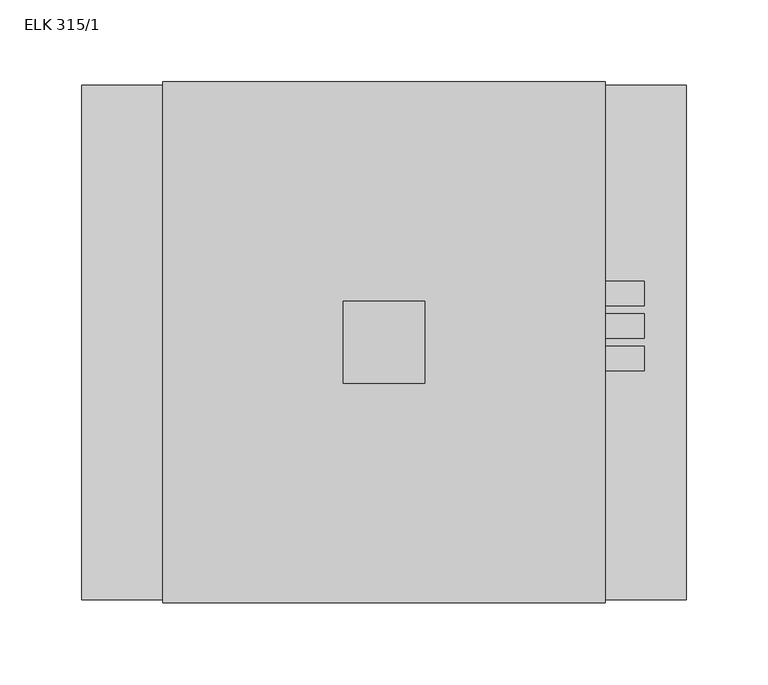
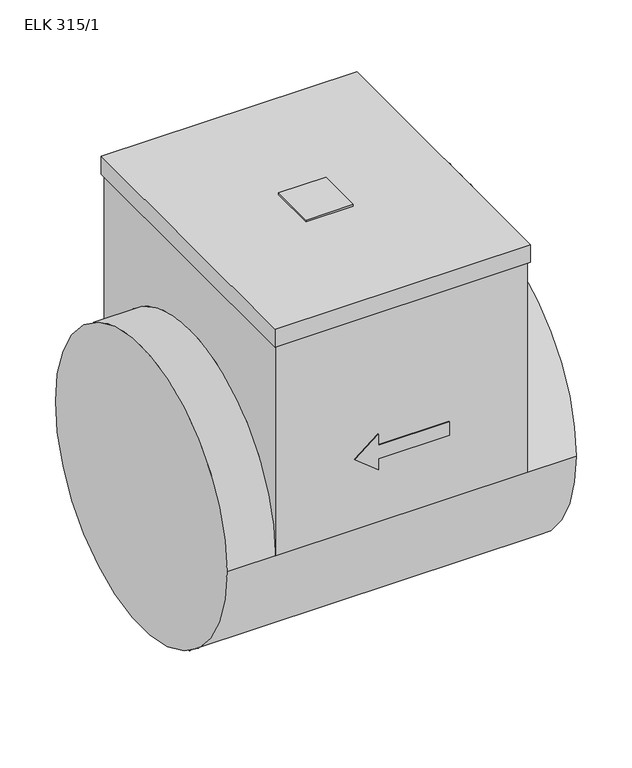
"""IFC4 building model written with IfcOpenShell, lengths in millimetres: proxy geometry, KORF_Нагреватель_Электрический_Круглый_ELK : ELK 315/1."""

from ifc_helpers import new_model, si_unit, point, frame, frame_2d, origin, place, context, project, spatial, polyline, circle_curve, trimmed, segment, composite_curve, outline, extrude, source, transform, mapped, element, save
from ifc_brep_helpers import plane_surface, cylinder_surface, advanced_brep


def elk_315_1_05c9570d(model_context):
    return source(origin(), model_context, "Body", "SolidModel", [
        extrude(outline(polyline([(210.0, 25.0), (210.0, -25.0), (160.0, -25.0), (160.0, 25.0), (210.0, 25.0)])), frame((0.0, 0.0, 255.5), z_axis=(0.0, 0.0, 1.0), x_axis=(1.0, 0.0, 0.0)), (0.0, 0.0, 1.0), 2.0),
        extrude(outline(composite_curve([segment(trimmed(circle_curve(frame_2d((-10.0, 215.5)), 7.5), [point((-17.5, 215.5))], [point((-2.5, 215.5))], False, "CARTESIAN"), True, "CONTINUOUS"), segment(trimmed(circle_curve(frame_2d((-10.0, 215.5)), 7.5), [point((-2.5, 215.5))], [point((-17.5, 215.5))], False, "CARTESIAN"), True, "CONTINUOUS")], self_intersect=False)), frame((318.5, 0.0, 0.0), z_axis=(1.0, 0.0, 0.0), x_axis=(0.0, 1.0, 0.0)), (0.0, 0.0, 1.0), 25.75),
        extrude(outline(composite_curve([segment(trimmed(circle_curve(frame_2d((10.0, 215.5)), 7.5), [point((2.5, 215.5))], [point((17.5, 215.5))], False, "CARTESIAN"), True, "CONTINUOUS"), segment(trimmed(circle_curve(frame_2d((10.0, 215.5)), 7.5), [point((17.5, 215.5))], [point((2.5, 215.5))], False, "CARTESIAN"), True, "CONTINUOUS")], self_intersect=False)), frame((318.5, 0.0, 0.0), z_axis=(1.0, 0.0, 0.0), x_axis=(0.0, 1.0, 0.0)), (0.0, 0.0, 1.0), 25.75),
        extrude(outline(composite_curve([segment(trimmed(circle_curve(frame_2d((30.0, 215.5)), 7.5), [point((22.5, 215.5))], [point((37.5, 215.5))], False, "CARTESIAN"), True, "CONTINUOUS"), segment(trimmed(circle_curve(frame_2d((30.0, 215.5)), 7.5), [point((37.5, 215.5))], [point((22.5, 215.5))], False, "CARTESIAN"), True, "CONTINUOUS")], self_intersect=False)), frame((318.5, 0.0, 0.0), z_axis=(1.0, 0.0, 0.0), x_axis=(0.0, 1.0, 0.0)), (0.0, 0.0, 1.0), 25.75),
        advanced_brep(
        [(320.5, 159.5, 235.5), (320.5, -159.5, 235.5), (49.5, -159.5, 235.5), (49.5, 159.5, 235.5), (318.5, 157.5, 235.5), (51.5, 157.5, 235.5), (51.5, -157.5, 235.5), (318.5, -157.5, 235.5), (320.5, 159.5, 255.5), (49.5, 159.5, 255.5), (49.5, -159.5, 255.5), (320.5, -159.5, 255.5), (318.5, 157.5, 0.0), (51.5, 157.5, 0.0), (160.0, 157.5, 98.75), (135.0, 157.5, 78.75), (160.0, 157.5, 58.75), (160.0, 157.5, 71.25), (235.0, 157.5, 71.25), (235.0, 157.5, 86.25), (160.0, 157.5, 86.25), (51.5, -157.5, 0.0), (318.5, -157.5, 0.0), (135.0, -157.5, 78.75), (160.0, -157.5, 98.75), (160.0, -157.5, 86.25), (235.0, -157.5, 86.25), (235.0, -157.5, 71.25), (160.0, -157.5, 71.25), (160.0, -157.5, 58.75), (370.0, -157.5, 0.0), (370.0, 157.5, 0.0), (0.0, -157.5, 0.0), (0.0, 157.5, 0.0), (160.0, -158.5, 98.75), (135.0, -158.5, 78.75), (160.0, -158.5, 58.75), (160.0, -158.5, 71.25), (235.0, -158.5, 71.25), (235.0, -158.5, 86.25), (160.0, -158.5, 86.25), (160.0, 158.5, 98.75), (160.0, 158.5, 86.25), (235.0, 158.5, 86.25), (235.0, 158.5, 71.25), (160.0, 158.5, 71.25), (160.0, 158.5, 58.75), (135.0, 158.5, 78.75)],
        [
            (0, 1),
            (1, 2),
            (2, 3),
            (3, 0),
            (4, 5),
            (5, 6),
            (6, 7),
            (7, 4),
            (8, 9),
            (9, 10),
            (10, 11),
            (11, 8),
            (3, 9),
            (8, 0),
            (2, 10),
            (1, 11),
            (4, 12),
            (12, 13),
            (13, 5),
            (14, 15),
            (15, 16),
            (16, 17),
            (17, 18),
            (18, 19),
            (19, 20),
            (20, 14),
            (13, 21, circle_curve(frame((51.5, 0.0, 0.0), z_axis=(1.0, 0.0, 0.0), x_axis=(0.0, 1.0, 0.0)), 157.5)),
            (21, 6),
            (21, 22),
            (22, 7),
            (23, 24),
            (24, 25),
            (25, 26),
            (26, 27),
            (27, 28),
            (28, 29),
            (29, 23),
            (22, 12, circle_curve(frame((318.5, 0.0, 0.0), z_axis=(-1.0, 0.0, 0.0), x_axis=(0.0, 1.0, 0.0)), 157.5)),
            (30, 31, circle_curve(frame((370.0, 0.0, 0.0), z_axis=(1.0, 0.0, 0.0), x_axis=(0.0, 1.0, 0.0)), 157.5)),
            (31, 30, circle_curve(frame((370.0, 0.0, 0.0), z_axis=(1.0, 0.0, 0.0), x_axis=(0.0, 1.0, 0.0)), 157.5)),
            (32, 33, circle_curve(frame((0.0, 0.0, 0.0), z_axis=(-1.0, 0.0, 0.0), x_axis=(0.0, 1.0, 0.0)), 157.5)),
            (33, 32, circle_curve(frame((0.0, 0.0, 0.0), z_axis=(-1.0, 0.0, 0.0), x_axis=(0.0, 1.0, 0.0)), 157.5)),
            (30, 22),
            (21, 32),
            (33, 13),
            (12, 31),
            (34, 35),
            (35, 36),
            (36, 37),
            (37, 38),
            (38, 39),
            (39, 40),
            (40, 34),
            (41, 42),
            (42, 43),
            (43, 44),
            (44, 45),
            (45, 46),
            (46, 47),
            (47, 41),
            (34, 24),
            (23, 35),
            (47, 15),
            (14, 41),
            (29, 36),
            (46, 16),
            (28, 37),
            (45, 17),
            (27, 38),
            (44, 18),
            (26, 39),
            (43, 19),
            (25, 40),
            (42, 20),
        ],
        [
            plane_surface(frame((49.5, 159.5, 235.5), z_axis=(0.0, 0.0, -1.0), x_axis=(1.0, 0.0, 0.0))),
            plane_surface(frame((49.5, 159.5, 255.5), z_axis=(0.0, 0.0, 1.0), x_axis=(-1.0, 0.0, 0.0))),
            plane_surface(frame((320.5, 159.5, 255.5), z_axis=(0.0, 1.0, 0.0), x_axis=(0.0, 0.0, -1.0))),
            plane_surface(frame((49.5, 159.5, 255.5), z_axis=(-1.0, 0.0, 0.0), x_axis=(0.0, 0.0, -1.0))),
            plane_surface(frame((49.5, -159.5, 255.5), z_axis=(0.0, -1.0, 0.0), x_axis=(0.0, 0.0, -1.0))),
            plane_surface(frame((320.5, -159.5, 255.5), z_axis=(1.0, 0.0, 0.0), x_axis=(0.0, 0.0, -1.0))),
            plane_surface(frame((318.5, 157.5, 255.5), z_axis=(0.0, 1.0, 0.0), x_axis=(0.0, 0.0, -1.0))),
            plane_surface(frame((51.5, 157.5, 255.5), z_axis=(-1.0, 0.0, 0.0), x_axis=(0.0, 0.0, -1.0))),
            plane_surface(frame((51.5, -157.5, 255.5), z_axis=(0.0, -1.0, 0.0), x_axis=(0.0, 0.0, -1.0))),
            plane_surface(frame((318.5, -157.5, 255.5), z_axis=(1.0, 0.0, 0.0), x_axis=(0.0, 0.0, -1.0))),
            plane_surface(frame((370.0, 157.5, 0.0), z_axis=(1.0, 0.0, 0.0), x_axis=(0.0, 0.0, 1.0))),
            plane_surface(frame((0.0, 157.5, 0.0), z_axis=(-1.0, 0.0, 0.0), x_axis=(0.0, 0.0, -1.0))),
            cylinder_surface(frame((0.0, 0.0, 0.0), z_axis=(1.0, 0.0, 0.0), x_axis=(0.0, 1.0, 0.0)), 157.5),
            plane_surface(frame((135.0, -158.5, 78.75), z_axis=(0.0, -1.0000000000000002, 0.0), x_axis=(-0.7808688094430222, 0.0, -0.6246950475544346))),
            plane_surface(frame((135.0, 158.5, 78.75), z_axis=(0.0, 1.0000000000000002, 0.0), x_axis=(0.7808688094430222, 0.0, 0.6246950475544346))),
            plane_surface(frame((160.0, -158.5, 98.75), z_axis=(-0.6246950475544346, 0.0, 0.7808688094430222), x_axis=(0.0, 1.0, 0.0))),
            plane_surface(frame((135.0, -158.5, 78.75), z_axis=(-0.624695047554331, 0.0, -0.780868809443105), x_axis=(0.0, 1.0, 0.0))),
            plane_surface(frame((160.0, -158.5, 58.75), z_axis=(1.0, 0.0, 0.0), x_axis=(0.0, 1.0, 0.0))),
            plane_surface(frame((160.0, -158.5, 71.25), z_axis=(0.0, 0.0, -1.0), x_axis=(0.0, 1.0, 0.0))),
            plane_surface(frame((235.0, -158.5, 71.25), z_axis=(1.0, 0.0, 0.0), x_axis=(0.0, 1.0, 0.0))),
            plane_surface(frame((235.0, -158.5, 86.25), z_axis=(0.0, 0.0, 1.0), x_axis=(0.0, 1.0, 0.0))),
            plane_surface(frame((160.0, -158.5, 86.25), z_axis=(1.0, 0.0, 0.0), x_axis=(0.0, 1.0, 0.0))),
        ],
        [
            (0, [[1, 2, 3, 4], [5, 6, 7, 8]]),
            (1, [[9, 10, 11, 12]]),
            (2, [[-4, 13, -9, 14]]),
            (3, [[-3, 15, -10, -13]]),
            (4, [[-2, 16, -11, -15]]),
            (5, [[-1, -14, -12, -16]]),
            (6, [[17, 18, 19, -5], [20, 21, 22, 23, 24, 25, 26]]),
            (7, [[-19, 27, 28, -6]]),
            (8, [[-28, 29, 30, -7], [31, 32, 33, 34, 35, 36, 37]]),
            (9, [[-17, -8, -30, 38]]),
            (10, [[39, 40]]),
            (11, [[41, 42]]),
            (12, [[-39, 43, -29, 44, -42, 45, -18, 46]]),
            (12, [[-40, -46, -38, -43]]),
            (12, [[-41, -44, -27, -45]]),
            (13, [[47, 48, 49, 50, 51, 52, 53]]),
            (14, [[54, 55, 56, 57, 58, 59, 60]]),
            (15, [[-47, 61, -31, 62]]),
            (15, [[-60, 63, -20, 64]]),
            (16, [[-48, -62, -37, 65]]),
            (16, [[-59, 66, -21, -63]]),
            (17, [[-49, -65, -36, 67]]),
            (17, [[-58, 68, -22, -66]]),
            (18, [[-50, -67, -35, 69]]),
            (18, [[-57, 70, -23, -68]]),
            (19, [[-51, -69, -34, 71]]),
            (19, [[-56, 72, -24, -70]]),
            (20, [[-52, -71, -33, 73]]),
            (20, [[-55, 74, -25, -72]]),
            (21, [[-53, -73, -32, -61]]),
            (21, [[-54, -64, -26, -74]]),
        ],
    ),
    ])


if __name__ == "__main__":
    model = new_model("IFC4")
    model_context = context("Model", 3, world=origin())
    ifc_project = project(units=[si_unit("LENGTHUNIT", "METRE", prefix="MILLI")], contexts=[model_context])
    site = spatial("IfcSite", under=ifc_project)
    building = spatial("IfcBuilding", under=site)
    placement = place(None, origin())
    elk_315_1_shape = elk_315_1_05c9570d(model_context)
    element("IfcBuildingElementProxy", 1, Name="KORF_Нагреватель_Электрический_Круглый_ELK : ELK 315/1", ObjectType="KORF_Нагреватель_Электрический_Круглый_ELK : ELK 315/1", at=placement, inside=building, context=model_context, shape_type="MappedRepresentation", body=[
        mapped(elk_315_1_shape, transform((0.0, 0.0, 0.0), x_axis=(1.0, 0.0, 0.0), y_axis=(0.0, 1.0, 0.0), z_axis=(0.0, 0.0, 1.0))),
    ])
    save(model, "model.ifc")
